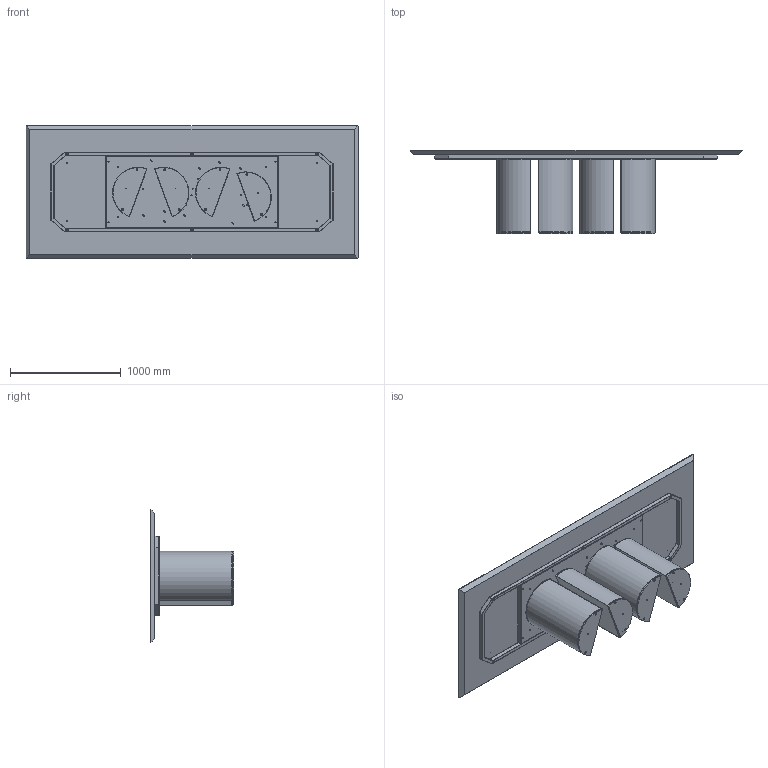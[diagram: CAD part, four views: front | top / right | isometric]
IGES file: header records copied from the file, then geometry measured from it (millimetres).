
Start section: SolidWorks IGES file using analytic representation for surfaces
Global section: file name: Y:\eforma\TECNICO\SOLIDWORKS\E-FORMA\1-TAVOLI\PLAI\02 parts\PL24W.IGS; native system: SolidWorks 2022; preprocessor: SolidWorks 2022; author: eforma.tech; date: 240807.155725; units: millimetre
Bounding box: 3000 x 752 x 1200 mm (x, y, z)
Volume: 149084075.2 mm3; surface area: 19091221.1 mm2
Topology: 59 solids, 59 shells, 1610 faces, 3694 edges, 2147 vertices
Faces by surface type: revolution 970, plane 640
